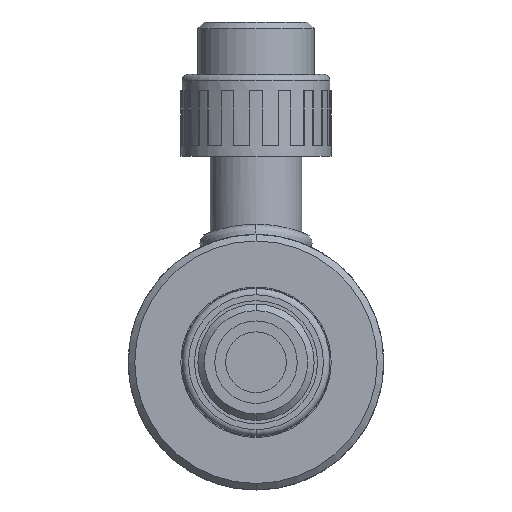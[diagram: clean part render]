
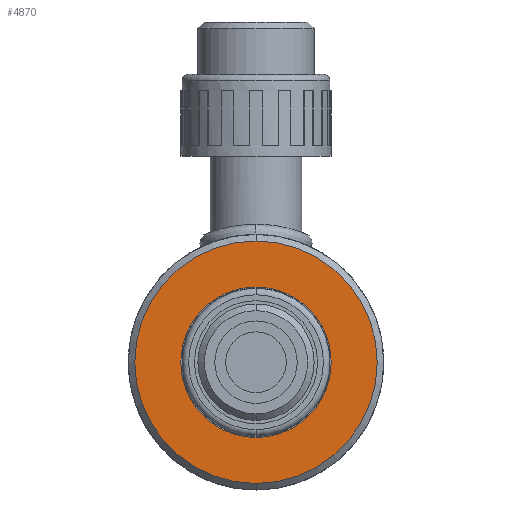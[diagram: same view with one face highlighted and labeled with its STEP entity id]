
A CAD part, front view. The second image highlights one B-rep face of the part: STEP entity #4870.
In plain terms, the highlighted planar face has unit normal (0, -1, 0).
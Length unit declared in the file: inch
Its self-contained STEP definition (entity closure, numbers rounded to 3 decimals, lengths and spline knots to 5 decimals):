
#145 = CIRCLE ( 'NONE', #5223, 0.513 ) ;
#466 = DIRECTION ( 'NONE',  ( 0., 1., 0. ) ) ;
#550 = EDGE_LOOP ( 'NONE', ( #9517, #7722 ) ) ;
#859 = CARTESIAN_POINT ( 'NONE',  ( 0., 0., 0. ) ) ;
#1224 = CARTESIAN_POINT ( 'NONE',  ( 0., 0., 0. ) ) ;
#1231 = CIRCLE ( 'NONE', #1471, 1.11 ) ;
#1436 = EDGE_LOOP ( 'NONE', ( #4134, #5614 ) ) ;
#1471 = AXIS2_PLACEMENT_3D ( 'NONE', #1224, #6613, #2004 ) ;
#1653 = DIRECTION ( 'NONE',  ( 0., 0., 1. ) ) ;
#2004 = DIRECTION ( 'NONE',  ( 0., 0., 1. ) ) ;
#2099 = EDGE_CURVE ( 'NONE', #6853, #2893, #145, .T. ) ;
#2834 = CARTESIAN_POINT ( 'NONE',  ( 0., 0., 0. ) ) ;
#2893 = VERTEX_POINT ( 'NONE', #9923 ) ;
#2928 = CIRCLE ( 'NONE', #6667, 0.513 ) ;
#2942 = CARTESIAN_POINT ( 'NONE',  ( 0., 0., -1.11 ) ) ;
#3020 = FACE_OUTER_BOUND ( 'NONE', #1436, .T. ) ;
#3207 = CARTESIAN_POINT ( 'NONE',  ( 0., 0., 1.11 ) ) ;
#3268 = EDGE_CURVE ( 'NONE', #3897, #4547, #1231, .T. ) ;
#3294 = CARTESIAN_POINT ( 'NONE',  ( 0., 0., 0.513 ) ) ;
#3897 = VERTEX_POINT ( 'NONE', #2942 ) ;
#3910 = AXIS2_PLACEMENT_3D ( 'NONE', #859, #6266, #1653 ) ;
#4134 = ORIENTED_EDGE ( 'NONE', *, *, #8660, .T. ) ;
#4345 = DIRECTION ( 'NONE',  ( 0., 1., 0. ) ) ;
#4547 = VERTEX_POINT ( 'NONE', #3207 ) ;
#4870 = ADVANCED_FACE ( 'NONE', ( #5073, #3020 ), #5143, .F. ) ;
#5073 = FACE_BOUND ( 'NONE', #550, .T. ) ;
#5118 = CARTESIAN_POINT ( 'NONE',  ( 0., 0., 0. ) ) ;
#5143 = PLANE ( 'NONE',  #6015 ) ;
#5182 = DIRECTION ( 'NONE',  ( 0., 0., 1. ) ) ;
#5223 = AXIS2_PLACEMENT_3D ( 'NONE', #5118, #466, #5889 ) ;
#5614 = ORIENTED_EDGE ( 'NONE', *, *, #3268, .T. ) ;
#5641 = CIRCLE ( 'NONE', #3910, 1.11 ) ;
#5889 = DIRECTION ( 'NONE',  ( 0., 0., 1. ) ) ;
#6015 = AXIS2_PLACEMENT_3D ( 'NONE', #2834, #9773, #5182 ) ;
#6266 = DIRECTION ( 'NONE',  ( 0., -1., 0. ) ) ;
#6613 = DIRECTION ( 'NONE',  ( 0., -1., 0. ) ) ;
#6667 = AXIS2_PLACEMENT_3D ( 'NONE', #8938, #4345, #9700 ) ;
#6853 = VERTEX_POINT ( 'NONE', #3294 ) ;
#7722 = ORIENTED_EDGE ( 'NONE', *, *, #8528, .T. ) ;
#8528 = EDGE_CURVE ( 'NONE', #2893, #6853, #2928, .T. ) ;
#8660 = EDGE_CURVE ( 'NONE', #4547, #3897, #5641, .T. ) ;
#8938 = CARTESIAN_POINT ( 'NONE',  ( 0., 0., 0. ) ) ;
#9517 = ORIENTED_EDGE ( 'NONE', *, *, #2099, .T. ) ;
#9700 = DIRECTION ( 'NONE',  ( 0., 0., 1. ) ) ;
#9773 = DIRECTION ( 'NONE',  ( 0., 1., 0. ) ) ;
#9923 = CARTESIAN_POINT ( 'NONE',  ( 0., 0., -0.513 ) ) ;
